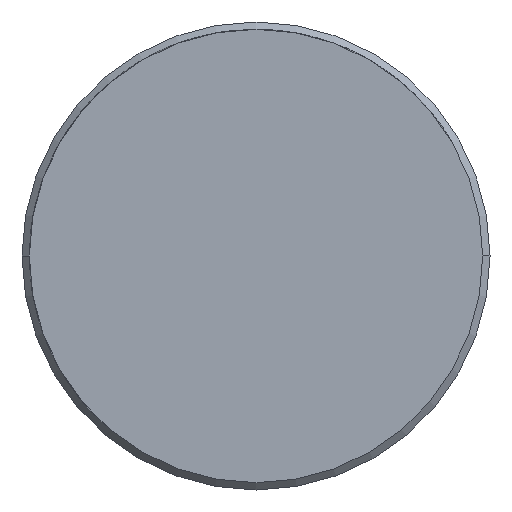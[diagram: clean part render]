
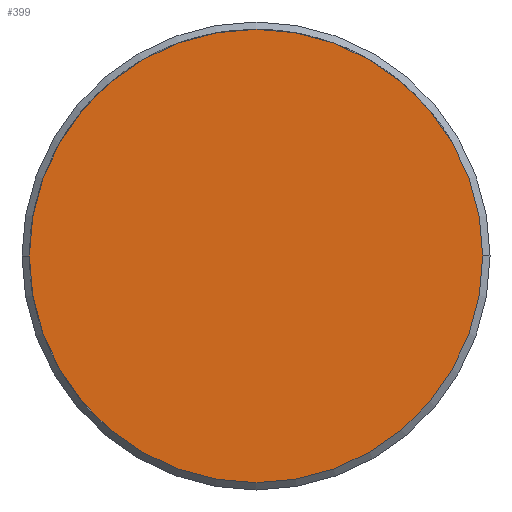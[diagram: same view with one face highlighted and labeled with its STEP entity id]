
A CAD part, left-side view. The second image highlights one B-rep face of the part: STEP entity #399.
In plain terms, the highlighted planar face has unit normal (-1, 0, 0).
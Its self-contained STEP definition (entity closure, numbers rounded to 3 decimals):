
#8 = VERTEX_POINT ( 'NONE', #381 ) ;
#10 = EDGE_CURVE ( 'NONE', #8, #11, #380, .T. ) ;
#11 = VERTEX_POINT ( 'NONE', #375 ) ;
#92 = EDGE_LOOP ( 'NONE', ( #400, #401 ) ) ;
#199 = EDGE_CURVE ( 'NONE', #11, #8, #980, .T. ) ;
#375 = CARTESIAN_POINT ( 'NONE',  ( 16.5, 0., 15.5 ) ) ;
#376 = DIRECTION ( 'NONE',  ( 0., 0., 1. ) ) ;
#377 = DIRECTION ( 'NONE',  ( 1., 0., 0. ) ) ;
#378 = CARTESIAN_POINT ( 'NONE',  ( 16.5, 0., 0. ) ) ;
#379 = AXIS2_PLACEMENT_3D ( 'NONE', #378, #377, #376 ) ;
#380 = CIRCLE ( 'NONE', #379, 15.5 ) ;
#381 = CARTESIAN_POINT ( 'NONE',  ( 16.5, 0., -15.5 ) ) ;
#399 = ADVANCED_FACE ( 'NONE', ( #1334 ), #1338, .T. ) ;
#400 = ORIENTED_EDGE ( 'NONE', *, *, #199, .F. ) ;
#401 = ORIENTED_EDGE ( 'NONE', *, *, #10, .F. ) ;
#835 = CARTESIAN_POINT ( 'NONE',  ( 16.5, 0., 0. ) ) ;
#977 = DIRECTION ( 'NONE',  ( 0., 0., 1. ) ) ;
#978 = DIRECTION ( 'NONE',  ( 1., 0., 0. ) ) ;
#979 = AXIS2_PLACEMENT_3D ( 'NONE', #835, #978, #977 ) ;
#980 = CIRCLE ( 'NONE', #979, 15.5 ) ;
#1329 = DIRECTION ( 'NONE',  ( 0., 0., 1. ) ) ;
#1330 = DIRECTION ( 'NONE',  ( -1., 0., 0. ) ) ;
#1331 = CARTESIAN_POINT ( 'NONE',  ( 16.5, 0., 0. ) ) ;
#1332 = AXIS2_PLACEMENT_3D ( 'NONE', #1331, #1330, #1329 ) ;
#1334 = FACE_OUTER_BOUND ( 'NONE', #92, .T. ) ;
#1338 = PLANE ( 'NONE',  #1332 ) ;
